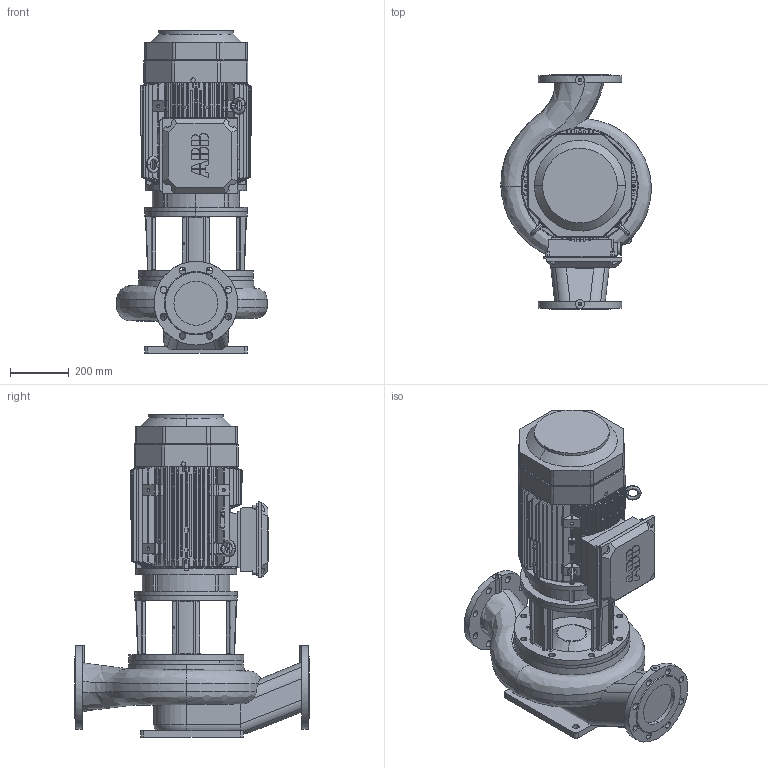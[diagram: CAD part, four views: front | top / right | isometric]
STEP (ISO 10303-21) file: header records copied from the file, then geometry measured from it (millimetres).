
FILE_DESCRIPTION(('STEP AP214'),'1');
FILE_NAME('export.stp','2018-05-30T06:38:15',(' '),(' '),'Spatial InterOp 3D',' ',' ');
FILE_SCHEMA(('AUTOMOTIVE_DESIGN { 1 0 10303 214 1 1 1 1 }'));
Length unit declared in the file: millimetre
Products named in the file (19): W_ALP11534SD220; V_TLL100SAL1202; V_PPALP1153; PPALP1153_Kesken; Tukijalka_ALP1128; IEC180_FRAME; P100781; IEC-180; 3GZV311000-999999-324000-324001_; 3GZV183002-193006-183002-183999_; -simplified-simplified_parts_Sta; -simplified-simplified_parts_M31; -simplified-simplified_parts_Fan; -simplified-simplified_parts_Ter; 3GZV244000-310999-294000-299999_; Implementation-STANDARD_PARTS_Li
Assembly tree (19 placements, depth 4):
  W_ALP11534SD220
    V_TLL100SAL1202
    V_PPALP1153
      PPALP1153_Kesken
      Tukijalka_ALP1128
    IEC180_FRAME
      P100781
      IEC-180
        3GZV311000-999999-324000-324001_
        3GZV183002-193006-183002-183999_
        -simplified-simplified_parts_Sta
        -simplified-simplified_parts_M31
        -simplified-simplified_parts_Fan
        -simplified-simplified_parts_Ter
        -simplified-simplified_parts_Ter
        3GZV244000-310999-294000-299999_
        3GZV244000-310999-294000-299999_
        3GZV244000-310999-294000-299999_
        Implementation-STANDARD_PARTS_Li  x2
Bounding box: 512.91 x 800 x 1098.44 mm (x, y, z)
Volume: 103255016.7 mm3; surface area: 5298876.3 mm2
Topology: 11 solids, 141 shells, 1569 faces, 4435 edges, 3023 vertices
Faces by surface type: bspline 1260, cylinder 184, plane 63, torus 40, cone 22
Entity records: 83634 total; most frequent: CARTESIAN_POINT 28941, ORIENTED_EDGE 8095, STYLED_ITEM 4505, PRESENTATION_STYLE_ASSIGNMENT 4505, COLOUR_RGB 4505, EDGE_CURVE 4293, CURVE_STYLE 2956, DRAUGHTING_PRE_DEFINED_CURVE_FONT 2956
